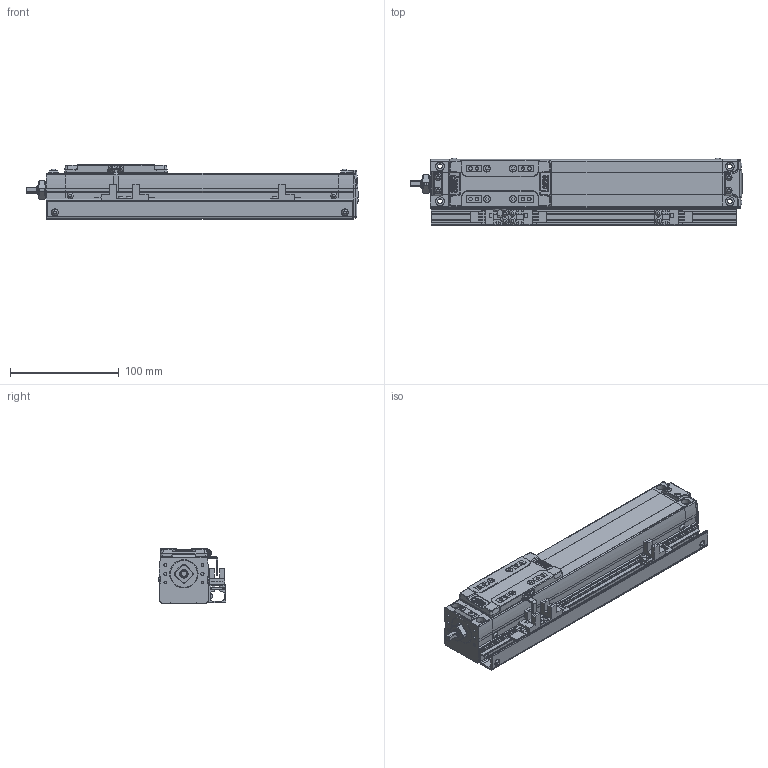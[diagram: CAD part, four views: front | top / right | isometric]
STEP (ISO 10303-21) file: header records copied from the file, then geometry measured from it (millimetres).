
FILE_DESCRIPTION(('STEP AP214'),'1');
FILE_NAME('Z:/Web/3D/SAN45/STP/SAN45ㅁㅁ-150+3SR.stp','2012-06-15T04:15:38',(' '),(' '),'Spatial InterOp 3D',' ',' ');
FILE_SCHEMA(('automotive_design'));
Length unit declared in the file: metre
Products named in the file (51): SAN45__-150; BODY-SAN45; REAR-SAN45; RRCV-SAN45; BHCS M3 x 6L; BHCS M3 X 6L; FRONT-SAN45; SHAFT; RN8 x 0.75; SSFX-SAN45; SLIDE-SAN45; SLCV-IM45; FHCS M3 x 6L; ____81; 3SR; SRL-16x17-380L; - OT; EE-SX674; SBK-SX674-352; HOME; + OT; DOG; SDG-SA45; SCREW M3 x 5L
Assembly tree (50 placements, depth 4):
  ____81
    SAN45__-150
      BODY-SAN45
      REAR-SAN45
        REAR-SAN45
        RRCV-SAN45
        BHCS M3 x 6L
        BHCS M3 X 6L
        BHCS M3 x 6L
        BHCS M3 x 6L
        BHCS M3 x 6L
        BHCS M3 x 6L
      FRONT-SAN45
        FRONT-SAN45
        SHAFT
        RN8 x 0.75
        SSFX-SAN45
        BHCS M3 x 6L
        BHCS M3 x 6L
        BHCS M3 x 6L
        BHCS M3 x 6L
      SLIDE-SAN45
        SLIDE-SAN45
        SLCV-IM45
        FHCS M3 x 6L
        FHCS M3 x 6L
        FHCS M3 x 6L
        FHCS M3 x 6L
    3SR
      SRL-16x17-380L
      BHCS M3 x 6L
      BHCS M3 x 6L
      - OT
        EE-SX674
        BHCS M3 x 6L
        BHCS M3 x 6L
        SBK-SX674-352
      HOME
        EE-SX674
        BHCS M3 x 6L
        BHCS M3 x 6L
        SBK-SX674-352
      + OT
        EE-SX674
        BHCS M3 x 6L
        BHCS M3 x 6L
        SBK-SX674-352
      DOG
        SDG-SA45
        SCREW M3 x 5L
        SCREW M3 x 5L
Bounding box: 304.65 x 62.06 x 50 mm (x, y, z)
Volume: 569163.5 mm3; surface area: 138223 mm2
Topology: 41 solids, 41 shells, 1926 faces, 4901 edges, 3156 vertices
Faces by surface type: plane 1239, cylinder 491, cone 74, sphere 52, bspline 42, torus 25, extrusion 3
Full cylindrical faces by diameter (mm): 0.376 x2, 0.47 x1, 1.137 x2, 1.421 x1, 1.665 x4, 2.081 x2, 2.2 x4, 2.5 x19, 3 x6, 3.193 x4, 3.3 x4, 3.4 x4, 3.5 x14, 3.991 x2, 4.2 x6, 4.5 x4, 5 x3, 6 x6, 6.5 x2, 7 x1, 8 x8, 13 x1, 15 x1, 19 x1
Entity records: 76873 total; most frequent: CARTESIAN_POINT 14094, DIRECTION 9687, ORIENTED_EDGE 9242, EDGE_CURVE 4621, VECTOR 3247, LINE 3244, AXIS2_PLACEMENT_3D 3220, VERTEX_POINT 3103
